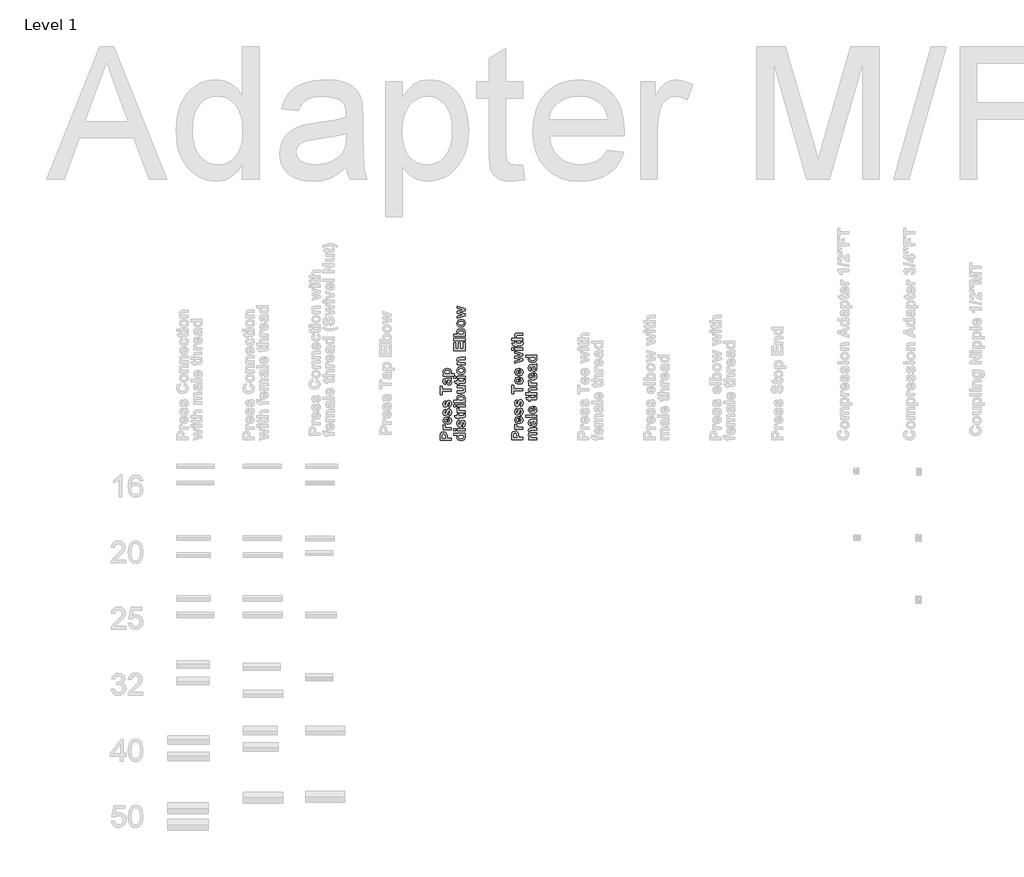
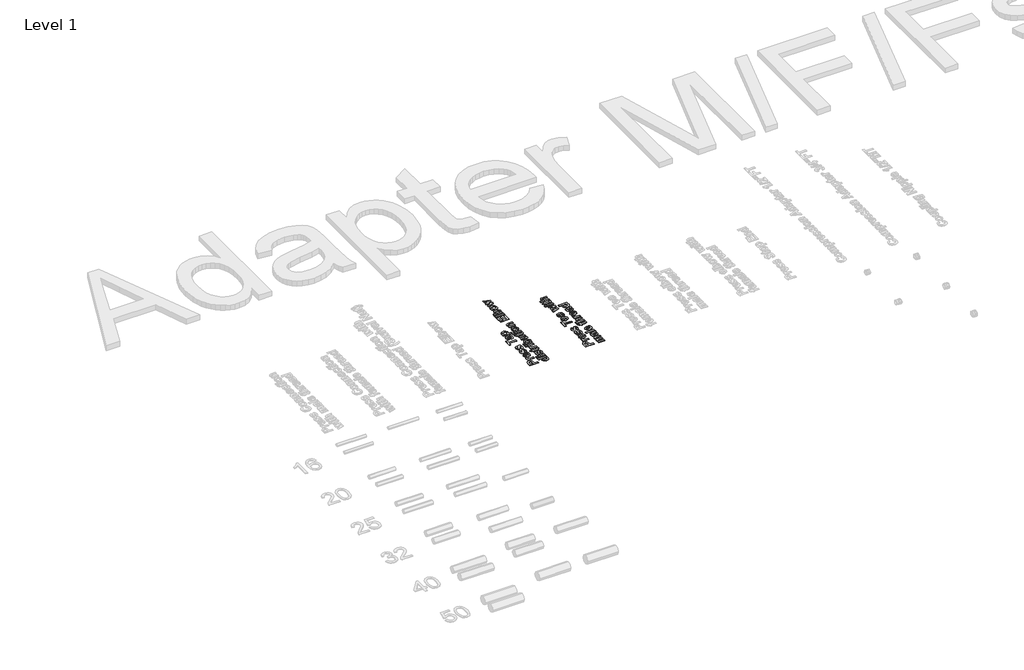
# One storey, part 44 of 58: 2 proxies.
"""IFC4 building model written with IfcOpenShell, lengths in millimetres."""

from ifc_helpers import new_model, si_unit, frame, origin, place, context, project, spatial, polyline, outline, extrude, element, save

model = new_model("IFC4")

# Units and contexts
model_context = context("Model", 3, world=origin())
ifc_project = project(units=[si_unit("LENGTHUNIT", "METRE", prefix="MILLI")], contexts=[model_context])

# Site, building, storey
site = spatial("IfcSite", under=ifc_project)
building = spatial("IfcBuilding", under=site)
storey = spatial("IfcBuildingStorey", under=building, Name="Level 1", Elevation=27.3876384)

# Proxies
placement = place(None, origin())
element("IfcBuildingElementProxy", 1, Name="50mm Arial", ObjectType="50mm Arial", at=placement, inside=storey, context=model_context, shape_type="SweptSolid", body=[
    extrude(outline(polyline([(30614.4451568, 30402.7922822), (30563.4321868, 30402.7922822), (30563.4321868, 30419.2272644), (30564.1913084, 30431.4111657), (30569.1572287, 30438.7177109), (30579.0321352, 30441.659307), (30586.8827175, 30439.9323054), (30591.8802679, 30435.5420523), (30594.2904789, 30430.1333111), (30595.0116444, 30419.3158286), (30595.0116444, 30412.5090384), (30614.4451568, 30412.5090384), (30614.4451568, 30402.7922822)]), holes=[polyline([(30572.3392133, 30412.5090384), (30586.1046179, 30412.5090384), (30586.1046179, 30418.544055), (30585.3454963, 30427.2549751), (30582.9605894, 30430.6963262), (30579.1839595, 30431.9425508), (30574.8190105, 30430.1902452), (30572.668166, 30425.768362), (30572.3392133, 30417.8355415), (30572.3392133, 30412.5090384)])]), frame((0.0, 0.0, 27.3876384), z_axis=(0.0, 0.0, 1.0), x_axis=(1.0, 0.0, 0.0)), (0.0, 0.0, 1.0), 2.0),
    extrude(outline(polyline([(30614.4451568, 30459.47336), (30614.4451568, 30449.7566038), (30577.1975914, 30449.7566038), (30577.1975914, 30459.47336), (30582.3849222, 30459.47336), (30577.5455221, 30463.3575321), (30576.3878617, 30467.2796602), (30578.43749, 30473.2387646), (30587.6861212, 30470.4047107), (30586.1046179, 30465.9005894), (30587.2116702, 30462.4782163), (30591.2033845, 30460.2767637), (30603.2987216, 30459.47336), (30614.4451568, 30459.47336)])), frame((0.0, 0.0, 27.3876384), z_axis=(0.0, 0.0, 1.0), x_axis=(1.0, 0.0, 0.0)), (0.0, 0.0, 1.0), 2.0),
    extrude(outline(polyline([(30603.1089413, 30498.3403848), (30604.7284006, 30508.057141), (30612.5663309, 30502.2625129), (30615.2548865, 30492.3559763), (30613.6702202, 30484.1669523), (30608.9162213, 30478.4260954), (30596.0997187, 30474.858224), (30581.6258006, 30479.5900818), (30576.3878617, 30491.5588987), (30581.7649729, 30504.3754013), (30598.2505632, 30508.8668707), (30598.2505632, 30484.5749802), (30605.41161, 30486.8649969), (30607.9673193, 30492.3180203), (30606.815985, 30496.050368), (30603.1089413, 30498.3403848)]), holes=[polyline([(30592.5824554, 30499.1501145), (30585.9464676, 30496.986618), (30583.6754289, 30491.9764156), (30586.0666618, 30486.7637807), (30592.5824554, 30484.7394565), (30592.5824554, 30499.1501145)])]), frame((0.0, 0.0, 27.3876384), z_axis=(0.0, 0.0, 1.0), x_axis=(1.0, 0.0, 0.0)), (0.0, 0.0, 1.0), 2.0),
    extrude(outline(polyline([(30603.9186709, 30512.1057894), (30602.2992116, 30521.8225456), (30606.5249883, 30524.3086687), (30607.9673193, 30529.5529336), (30606.5882485, 30535.1324772), (30604.0072351, 30536.3976799), (30602.1853433, 30535.7271225), (30600.9074887, 30532.5514639), (30596.1503268, 30517.9889816), (30587.7873374, 30513.7252487), (30579.6773886, 30517.3816843), (30576.3878617, 30528.7305519), (30579.0447872, 30539.5986425), (30586.9143476, 30544.4949767), (30588.533807, 30534.7782205), (30584.9279795, 30532.9057206), (30583.6754289, 30528.9835925), (30584.7381991, 30524.3656029), (30586.7119152, 30523.4420049), (30588.4705468, 30524.3656029), (30591.1907325, 30532.9626547), (30595.5303775, 30543.2297741), (30602.8305967, 30546.114436), (30611.5921249, 30541.9329414), (30615.2548865, 30529.5529336), (30612.2057482, 30517.7802232), (30603.9186709, 30512.1057894)])), frame((0.0, 0.0, 27.3876384), z_axis=(0.0, 0.0, 1.0), x_axis=(1.0, 0.0, 0.0)), (0.0, 0.0, 1.0), 2.0),
    extrude(outline(polyline([(30603.9186709, 30550.9728141), (30602.2992116, 30560.6895703), (30606.5249883, 30563.1756935), (30607.9673193, 30568.4199584), (30606.5882485, 30573.999502), (30604.0072351, 30575.2647046), (30602.1853433, 30574.5941472), (30600.9074887, 30571.4184886), (30596.1503268, 30556.8560064), (30587.7873374, 30552.5922735), (30579.6773886, 30556.2487091), (30576.3878617, 30567.5975767), (30579.0447872, 30578.4656673), (30586.9143476, 30583.3620014), (30588.533807, 30573.6452453), (30584.9279795, 30571.7727454), (30583.6754289, 30567.8506172), (30584.7381991, 30563.2326276), (30586.7119152, 30562.3090297), (30588.4705468, 30563.2326276), (30591.1907325, 30571.8296795), (30595.5303775, 30582.0967988), (30602.8305967, 30584.9814608), (30611.5921249, 30580.7999661), (30615.2548865, 30568.4199584), (30612.2057482, 30556.6472479), (30603.9186709, 30550.9728141)])), frame((0.0, 0.0, 27.3876384), z_axis=(0.0, 0.0, 1.0), x_axis=(1.0, 0.0, 0.0)), (0.0, 0.0, 1.0), 2.0),
    extrude(outline(polyline([(30614.4451568, 30624.6582153), (30572.3392133, 30624.6582153), (30572.3392133, 30610.083081), (30563.4321868, 30610.083081), (30563.4321868, 30648.9501057), (30572.3392133, 30648.9501057), (30572.3392133, 30634.3749714), (30614.4451568, 30634.3749714), (30614.4451568, 30624.6582153)])), frame((0.0, 0.0, 27.3876384), z_axis=(0.0, 0.0, 1.0), x_axis=(1.0, 0.0, 0.0)), (0.0, 0.0, 1.0), 2.0),
    extrude(outline(polyline([(30588.533807, 30663.52524), (30586.9143476, 30654.6182135), (30578.9688751, 30659.5082217), (30576.3878617, 30669.8132971), (30577.950387, 30679.0619283), (30581.9104712, 30683.3383132), (30590.7226075, 30684.5782118), (30602.2106474, 30684.5782118), (30609.4476064, 30685.0906188), (30614.4451568, 30687.0074008), (30614.4451568, 30677.2906446), (30611.3580624, 30676.3796987), (30613.9707058, 30670.8381112), (30615.2548865, 30664.9296149), (30612.136162, 30656.1933908), (30604.2602756, 30652.9987541), (30598.642776, 30654.4221071), (30594.8598201, 30658.4138214), (30592.5698034, 30665.8152568), (30590.1532663, 30674.8614556), (30584.9279795, 30673.6531871), (30583.6754289, 30669.1047836), (30584.7508511, 30665.5748683), (30588.533807, 30663.52524)]), holes=[polyline([(30597.4408335, 30674.8614556), (30598.7882743, 30669.3831282), (30600.3254955, 30664.474142), (30603.4252419, 30662.7155103), (30606.6198785, 30664.1262113), (30607.9673193, 30667.7130607), (30606.3984681, 30672.3563544), (30603.488502, 30674.5071988), (30599.1994651, 30674.8614556), (30597.4408335, 30674.8614556)])]), frame((0.0, 0.0, 27.3876384), z_axis=(0.0, 0.0, 1.0), x_axis=(1.0, 0.0, 0.0)), (0.0, 0.0, 1.0), 2.0),
    extrude(outline(polyline([(30577.1975914, 30694.2949679), (30577.1975914, 30704.0117241), (30582.5620506, 30704.0117241), (30578.0958853, 30708.6297137), (30576.3878617, 30715.0948992), (30581.4676503, 30725.602407), (30595.6062897, 30729.923074), (30610.0928598, 30725.4632347), (30615.2548865, 30714.6520782), (30614.052944, 30709.1737509), (30609.9283834, 30704.0117241), (30628.2105614, 30704.0117241), (30628.2105614, 30694.2949679), (30577.1975914, 30694.2949679)]), holes=[polyline([(30595.1761208, 30704.0117241), (30604.8422689, 30706.4472392), (30607.9673193, 30712.3873655), (30605.1016354, 30717.9732351), (30595.6948538, 30720.2063178), (30586.636003, 30717.909975), (30583.6754289, 30712.2102372), (30586.5790689, 30706.346023), (30595.1761208, 30704.0117241)])]), frame((0.0, 0.0, 27.3876384), z_axis=(0.0, 0.0, 1.0), x_axis=(1.0, 0.0, 0.0)), (0.0, 0.0, 1.0), 2.0),
    extrude(outline(polyline([(30677.4008317, 30435.9911992), (30677.4008317, 30426.274443), (30672.0363726, 30426.274443), (30676.6859922, 30421.1440464), (30678.2105614, 30415.191268), (30673.0485347, 30404.7217163), (30658.6378767, 30400.3630932), (30644.2651749, 30404.7153902), (30639.3435366, 30415.7226531), (30644.4423032, 30426.274443), (30626.3878617, 30426.274443), (30626.3878617, 30435.9911992), (30677.4008317, 30435.9911992)]), holes=[polyline([(30658.0685356, 30410.0798494), (30666.950258, 30411.6993088), (30670.9229943, 30418.2404063), (30667.9434421, 30423.9338182), (30659.0427416, 30426.274443), (30649.5347438, 30424.0034043), (30646.6311038, 30418.1771462), (30649.5031138, 30412.4078222), (30658.0685356, 30410.0798494)])]), frame((0.0, 0.0, 27.3876384), z_axis=(0.0, 0.0, 1.0), x_axis=(1.0, 0.0, 0.0)), (0.0, 0.0, 1.0), 2.0),
    extrude(outline(polyline([(30677.4008317, 30445.7079554), (30640.1532663, 30445.7079554), (30640.1532663, 30455.4247116), (30677.4008317, 30455.4247116), (30677.4008317, 30445.7079554)])), frame((0.0, 0.0, 27.3876384), z_axis=(0.0, 0.0, 1.0), x_axis=(1.0, 0.0, 0.0)), (0.0, 0.0, 1.0), 2.0),
    extrude(outline(polyline([(30635.2948882, 30445.7079554), (30626.3878617, 30445.7079554), (30626.3878617, 30455.4247116), (30635.2948882, 30455.4247116), (30635.2948882, 30445.7079554)])), frame((0.0, 0.0, 27.3876384), z_axis=(0.0, 0.0, 1.0), x_axis=(1.0, 0.0, 0.0)), (0.0, 0.0, 1.0), 2.0),
    extrude(outline(polyline([(30666.8743459, 30461.0928194), (30665.2548865, 30470.8095756), (30669.4806633, 30473.2956987), (30670.9229943, 30478.5399636), (30669.5439234, 30484.1195072), (30666.96291, 30485.3847099), (30665.1410183, 30484.7141525), (30663.8631636, 30481.5384939), (30659.1060017, 30466.9760116), (30650.7430123, 30462.7122787), (30642.6330635, 30466.3687143), (30639.3435366, 30477.7175819), (30642.0004622, 30488.5856725), (30649.8700225, 30493.4820067), (30651.4894819, 30483.7652505), (30647.8836544, 30481.8927506), (30646.6311038, 30477.9706225), (30647.693874, 30473.3526329), (30649.6675901, 30472.4290349), (30651.4262218, 30473.3526329), (30654.1464074, 30481.9496847), (30658.4860524, 30492.2168041), (30665.7862716, 30495.101466), (30674.5477998, 30490.9199714), (30678.2105614, 30478.5399636), (30675.1614231, 30466.7672532), (30666.8743459, 30461.0928194)])), frame((0.0, 0.0, 27.3876384), z_axis=(0.0, 0.0, 1.0), x_axis=(1.0, 0.0, 0.0)), (0.0, 0.0, 1.0), 2.0),
    extrude(outline(polyline([(30640.1532663, 30521.8225456), (30647.4408335, 30521.8225456), (30647.4408335, 30514.5349784), (30663.4203427, 30514.5349784), (30669.0694724, 30514.7563889), (30670.3979352, 30515.762225), (30670.9229943, 30517.6726809), (30669.9867443, 30522.2274104), (30676.8947507, 30522.6322753), (30678.2105614, 30514.6741507), (30677.2996155, 30509.7651645), (30674.9463386, 30506.5578759), (30671.0368625, 30505.1345229), (30663.9643798, 30504.8182222), (30647.4408335, 30504.8182222), (30647.4408335, 30499.9598441), (30640.1532663, 30499.9598441), (30640.1532663, 30504.8182222), (30632.8656992, 30504.8182222), (30627.1975914, 30514.5349784), (30640.1532663, 30514.5349784), (30640.1532663, 30521.8225456)])), frame((0.0, 0.0, 27.3876384), z_axis=(0.0, 0.0, 1.0), x_axis=(1.0, 0.0, 0.0)), (0.0, 0.0, 1.0), 2.0),
    extrude(outline(polyline([(30677.4008317, 30537.2074095), (30677.4008317, 30527.4906534), (30640.1532663, 30527.4906534), (30640.1532663, 30537.2074095), (30645.3405971, 30537.2074095), (30640.5011971, 30541.0915816), (30639.3435366, 30545.0137098), (30641.3931649, 30550.9728141), (30650.6417961, 30548.1387603), (30649.0602928, 30543.6346389), (30650.1673451, 30540.2122658), (30654.1590594, 30538.0108132), (30666.2543966, 30537.2074095), (30677.4008317, 30537.2074095)])), frame((0.0, 0.0, 27.3876384), z_axis=(0.0, 0.0, 1.0), x_axis=(1.0, 0.0, 0.0)), (0.0, 0.0, 1.0), 2.0),
    extrude(outline(polyline([(30635.2948882, 30555.0214626), (30626.3878617, 30555.0214626), (30626.3878617, 30564.7382187), (30635.2948882, 30564.7382187), (30635.2948882, 30555.0214626)])), frame((0.0, 0.0, 27.3876384), z_axis=(0.0, 0.0, 1.0), x_axis=(1.0, 0.0, 0.0)), (0.0, 0.0, 1.0), 2.0),
    extrude(outline(polyline([(30677.4008317, 30555.0214626), (30640.1532663, 30555.0214626), (30640.1532663, 30564.7382187), (30677.4008317, 30564.7382187), (30677.4008317, 30555.0214626)])), frame((0.0, 0.0, 27.3876384), z_axis=(0.0, 0.0, 1.0), x_axis=(1.0, 0.0, 0.0)), (0.0, 0.0, 1.0), 2.0),
    extrude(outline(polyline([(30677.4008317, 30574.4549749), (30626.3878617, 30574.4549749), (30626.3878617, 30584.1717311), (30644.4423032, 30584.1717311), (30639.3435366, 30594.7235211), (30644.2651749, 30605.7307839), (30658.3974882, 30610.083081), (30673.0611867, 30605.756088), (30678.2105614, 30595.2549062), (30676.6543622, 30589.2641717), (30672.0363726, 30584.1717311), (30677.4008317, 30584.1717311), (30677.4008317, 30574.4549749)]), holes=[polyline([(30658.0685356, 30584.1717311), (30666.8743459, 30585.9683189), (30670.9229943, 30592.6485887), (30668.0509843, 30598.1079381), (30659.0174375, 30600.3663248), (30649.5347438, 30598.0952861), (30646.6311038, 30592.269028), (30649.4651577, 30586.4807259), (30658.0685356, 30584.1717311)])]), frame((0.0, 0.0, 27.3876384), z_axis=(0.0, 0.0, 1.0), x_axis=(1.0, 0.0, 0.0)), (0.0, 0.0, 1.0), 2.0),
    extrude(outline(polyline([(30677.4008317, 30640.8528089), (30671.9351564, 30640.8528089), (30676.5341679, 30635.7730203), (30678.2105614, 30629.1243805), (30676.565798, 30622.7351073), (30671.9414824, 30618.6358507), (30663.6986873, 30617.3706481), (30640.1532663, 30617.3706481), (30640.1532663, 30627.0874043), (30657.3726741, 30627.0874043), (30667.0578002, 30627.6124634), (30669.8792021, 30629.5355714), (30670.9229943, 30633.0844648), (30669.5312714, 30637.4810439), (30666.0709422, 30640.1379694), (30655.9556472, 30640.8528089), (30640.1532663, 30640.8528089), (30640.1532663, 30650.5695651), (30677.4008317, 30650.5695651), (30677.4008317, 30640.8528089)])), frame((0.0, 0.0, 27.3876384), z_axis=(0.0, 0.0, 1.0), x_axis=(1.0, 0.0, 0.0)), (0.0, 0.0, 1.0), 2.0),
    extrude(outline(polyline([(30640.1532663, 30678.1003743), (30647.4408335, 30678.1003743), (30647.4408335, 30670.8128072), (30663.4203427, 30670.8128072), (30669.0694724, 30671.0342176), (30670.3979352, 30672.0400537), (30670.9229943, 30673.9505097), (30669.9867443, 30678.5052391), (30676.8947507, 30678.910104), (30678.2105614, 30670.9519794), (30677.2996155, 30666.0429932), (30674.9463386, 30662.8357046), (30671.0368625, 30661.4123516), (30663.9643798, 30661.096051), (30647.4408335, 30661.096051), (30647.4408335, 30656.2376729), (30640.1532663, 30656.2376729), (30640.1532663, 30661.096051), (30632.8656992, 30661.096051), (30627.1975914, 30670.8128072), (30640.1532663, 30670.8128072), (30640.1532663, 30678.1003743)])), frame((0.0, 0.0, 27.3876384), z_axis=(0.0, 0.0, 1.0), x_axis=(1.0, 0.0, 0.0)), (0.0, 0.0, 1.0), 2.0),
    extrude(outline(polyline([(30635.2948882, 30683.7684821), (30626.3878617, 30683.7684821), (30626.3878617, 30693.4852383), (30635.2948882, 30693.4852383), (30635.2948882, 30683.7684821)])), frame((0.0, 0.0, 27.3876384), z_axis=(0.0, 0.0, 1.0), x_axis=(1.0, 0.0, 0.0)), (0.0, 0.0, 1.0), 2.0),
    extrude(outline(polyline([(30677.4008317, 30683.7684821), (30640.1532663, 30683.7684821), (30640.1532663, 30693.4852383), (30677.4008317, 30693.4852383), (30677.4008317, 30683.7684821)])), frame((0.0, 0.0, 27.3876384), z_axis=(0.0, 0.0, 1.0), x_axis=(1.0, 0.0, 0.0)), (0.0, 0.0, 1.0), 2.0),
    extrude(outline(polyline([(30658.2456639, 30700.7728054), (30648.7629702, 30703.1703644), (30641.7600737, 30709.9581765), (30639.3435366, 30719.7634969), (30644.821864, 30733.4846194), (30658.6758328, 30738.8301005), (30672.6626479, 30733.4276853), (30678.2105614, 30719.839409), (30675.9015666, 30710.1669349), (30669.1264065, 30703.1703644), (30658.2456639, 30700.7728054)]), holes=[polyline([(30658.777049, 30710.4895616), (30667.7916178, 30713.1781172), (30670.9229943, 30719.814105), (30667.7916178, 30726.4374407), (30658.7011369, 30729.1133443), (30649.7624803, 30726.4374407), (30646.6311038, 30719.814105), (30649.7624803, 30713.1781172), (30658.777049, 30710.4895616)])]), frame((0.0, 0.0, 27.3876384), z_axis=(0.0, 0.0, 1.0), x_axis=(1.0, 0.0, 0.0)), (0.0, 0.0, 1.0), 2.0),
    extrude(outline(polyline([(30677.4008317, 30779.3165846), (30677.4008317, 30769.5998284), (30658.258316, 30769.5998284), (30650.3887556, 30768.9925312), (30647.6179618, 30767.006163), (30646.6311038, 30763.7039842), (30648.0418047, 30759.2567969), (30651.7868045, 30756.5619153), (30660.4091604, 30755.8344238), (30677.4008317, 30755.8344238), (30677.4008317, 30746.1176676), (30640.1532663, 30746.1176676), (30640.1532663, 30755.8344238), (30645.5177255, 30755.8344238), (30640.8870839, 30761.0502217), (30639.3435366, 30767.461636), (30640.5201751, 30773.1044397), (30643.5187053, 30776.9759597), (30647.6495919, 30778.8041775), (30654.2729277, 30779.3165846), (30677.4008317, 30779.3165846)])), frame((0.0, 0.0, 27.3876384), z_axis=(0.0, 0.0, 1.0), x_axis=(1.0, 0.0, 0.0)), (0.0, 0.0, 1.0), 2.0),
    extrude(outline(polyline([(30677.4008317, 30808.4668532), (30626.3878617, 30808.4668532), (30626.3878617, 30846.5241483), (30635.2948882, 30846.5241483), (30635.2948882, 30818.1836094), (30646.6311038, 30818.1836094), (30646.6311038, 30844.9046889), (30655.5381303, 30844.9046889), (30655.5381303, 30818.1836094), (30668.4938052, 30818.1836094), (30668.4938052, 30847.3338779), (30677.4008317, 30847.3338779), (30677.4008317, 30808.4668532)])), frame((0.0, 0.0, 27.3876384), z_axis=(0.0, 0.0, 1.0), x_axis=(1.0, 0.0, 0.0)), (0.0, 0.0, 1.0), 2.0),
    extrude(outline(polyline([(30677.4008317, 30855.4311748), (30626.3878617, 30855.4311748), (30626.3878617, 30865.147931), (30677.4008317, 30865.147931), (30677.4008317, 30855.4311748)])), frame((0.0, 0.0, 27.3876384), z_axis=(0.0, 0.0, 1.0), x_axis=(1.0, 0.0, 0.0)), (0.0, 0.0, 1.0), 2.0),
    extrude(outline(polyline([(30677.4008317, 30874.8646871), (30626.3878617, 30874.8646871), (30626.3878617, 30884.5814433), (30644.4423032, 30884.5814433), (30639.3435366, 30895.1332333), (30644.2651749, 30906.1404961), (30658.3974882, 30910.4927932), (30673.0611867, 30906.1658002), (30678.2105614, 30895.6646184), (30676.6543622, 30889.6738839), (30672.0363726, 30884.5814433), (30677.4008317, 30884.5814433), (30677.4008317, 30874.8646871)]), holes=[polyline([(30658.0685356, 30884.5814433), (30666.8743459, 30886.3780311), (30670.9229943, 30893.0583009), (30668.0509843, 30898.5176503), (30659.0174375, 30900.776037), (30649.5347438, 30898.5049983), (30646.6311038, 30892.6787402), (30649.4651577, 30886.8904381), (30658.0685356, 30884.5814433)])]), frame((0.0, 0.0, 27.3876384), z_axis=(0.0, 0.0, 1.0), x_axis=(1.0, 0.0, 0.0)), (0.0, 0.0, 1.0), 2.0),
    extrude(outline(polyline([(30658.2456639, 30915.3511713), (30648.7629702, 30917.7487303), (30641.7600737, 30924.5365424), (30639.3435366, 30934.3418627), (30644.821864, 30948.0629852), (30658.6758328, 30953.4084663), (30672.6626479, 30948.0060511), (30678.2105614, 30934.4177749), (30675.9015666, 30924.7453008), (30669.1264065, 30917.7487303), (30658.2456639, 30915.3511713)]), holes=[polyline([(30658.777049, 30925.0679275), (30667.7916178, 30927.756483), (30670.9229943, 30934.3924708), (30667.7916178, 30941.0158066), (30658.7011369, 30943.6917102), (30649.7624803, 30941.0158066), (30646.6311038, 30934.3924708), (30649.7624803, 30927.756483), (30658.777049, 30925.0679275)])]), frame((0.0, 0.0, 27.3876384), z_axis=(0.0, 0.0, 1.0), x_axis=(1.0, 0.0, 0.0)), (0.0, 0.0, 1.0), 2.0),
    extrude(outline(polyline([(30677.4008317, 30968.4643776), (30640.1532663, 30956.6473851), (30640.1532663, 30966.250273), (30664.559025, 30973.2468436), (30640.1532663, 30979.7879412), (30640.1532663, 30989.5300014), (30664.559025, 30995.9192747), (30640.1532663, 31002.9411493), (30640.1532663, 31012.5187332), (30677.4008317, 31000.7270447), (30677.4008317, 30991.1874168), (30653.450546, 30984.5830591), (30677.4008317, 30978.1431777), (30677.4008317, 30968.4643776)])), frame((0.0, 0.0, 27.3876384), z_axis=(0.0, 0.0, 1.0), x_axis=(1.0, 0.0, 0.0)), (0.0, 0.0, 1.0), 2.0),
])
element("IfcBuildingElementProxy", 2, Name="50mm Arial", ObjectType="50mm Arial", at=placement, inside=storey, context=model_context, shape_type="SweptSolid", body=[
    extrude(outline(polyline([(30939.1417262, 30406.1759681), (30888.1287562, 30406.1759681), (30888.1287562, 30422.6109503), (30888.8878778, 30434.7948516), (30893.8537981, 30442.1013968), (30903.7287046, 30445.0429929), (30911.5792869, 30443.3159913), (30916.5768373, 30438.9257382), (30918.9870483, 30433.516997), (30919.7082138, 30422.6995145), (30919.7082138, 30415.8927243), (30939.1417262, 30415.8927243), (30939.1417262, 30406.1759681)]), holes=[polyline([(30897.0357827, 30415.8927243), (30910.8011873, 30415.8927243), (30910.8011873, 30421.9277409), (30910.0420657, 30430.638661), (30907.6571588, 30434.0800121), (30903.8805289, 30435.3262367), (30899.5155798, 30433.5739311), (30897.3647354, 30429.1520479), (30897.0357827, 30421.2192274), (30897.0357827, 30415.8927243)])]), frame((0.0, 0.0, 27.3876384), z_axis=(0.0, 0.0, 1.0), x_axis=(1.0, 0.0, 0.0)), (0.0, 0.0, 1.0), 2.0),
    extrude(outline(polyline([(30939.1417262, 30462.8570459), (30939.1417262, 30453.1402897), (30901.8941608, 30453.1402897), (30901.8941608, 30462.8570459), (30907.0814916, 30462.8570459), (30902.2420915, 30466.741218), (30901.0844311, 30470.6633461), (30903.1340594, 30476.6224505), (30912.3826906, 30473.7883966), (30910.8011873, 30469.2842753), (30911.9082396, 30465.8619022), (30915.8999539, 30463.6604496), (30927.995291, 30462.8570459), (30939.1417262, 30462.8570459)])), frame((0.0, 0.0, 27.3876384), z_axis=(0.0, 0.0, 1.0), x_axis=(1.0, 0.0, 0.0)), (0.0, 0.0, 1.0), 2.0),
    extrude(outline(polyline([(30927.8055106, 30501.7240707), (30929.42497, 30511.4408269), (30937.2629003, 30505.6461988), (30939.9514559, 30495.7396622), (30938.3667896, 30487.5506382), (30933.6127907, 30481.8097813), (30920.7962881, 30478.2419099), (30906.32237, 30482.9737677), (30901.0844311, 30494.9425846), (30906.4615423, 30507.7590872), (30922.9471325, 30512.2505566), (30922.9471325, 30487.9586661), (30930.1081794, 30490.2486828), (30932.6638887, 30495.7017062), (30931.5125543, 30499.4340539), (30927.8055106, 30501.7240707)]), holes=[polyline([(30917.2790248, 30502.5338004), (30910.643037, 30500.3703039), (30908.3719982, 30495.3601015), (30910.7632312, 30490.1474666), (30917.2790248, 30488.1231424), (30917.2790248, 30502.5338004)])]), frame((0.0, 0.0, 27.3876384), z_axis=(0.0, 0.0, 1.0), x_axis=(1.0, 0.0, 0.0)), (0.0, 0.0, 1.0), 2.0),
    extrude(outline(polyline([(30928.6152403, 30515.4894753), (30926.9957809, 30525.2062315), (30931.2215577, 30527.6923546), (30932.6638887, 30532.9366195), (30931.2848179, 30538.5161631), (30928.7038045, 30539.7813658), (30926.8819127, 30539.1108084), (30925.604058, 30535.9351498), (30920.8468962, 30521.3726675), (30912.4839068, 30517.1089346), (30904.3739579, 30520.7653702), (30901.0844311, 30532.1142378), (30903.7413566, 30542.9823284), (30911.610917, 30547.8786626), (30913.2303763, 30538.1619064), (30909.6245488, 30536.2894065), (30908.3719982, 30532.3672784), (30909.4347685, 30527.7492888), (30911.4084846, 30526.8256908), (30913.1671162, 30527.7492888), (30915.8873019, 30536.3463406), (30920.2269469, 30546.61346), (30927.527166, 30549.4981219), (30936.2886943, 30545.3166273), (30939.9514559, 30532.9366195), (30936.9023175, 30521.1639091), (30928.6152403, 30515.4894753)])), frame((0.0, 0.0, 27.3876384), z_axis=(0.0, 0.0, 1.0), x_axis=(1.0, 0.0, 0.0)), (0.0, 0.0, 1.0), 2.0),
    extrude(outline(polyline([(30928.6152403, 30554.3565), (30926.9957809, 30564.0732562), (30931.2215577, 30566.5593794), (30932.6638887, 30571.8036443), (30931.2848179, 30577.3831879), (30928.7038045, 30578.6483905), (30926.8819127, 30577.9778331), (30925.604058, 30574.8021745), (30920.8468962, 30560.2396923), (30912.4839068, 30555.9759594), (30904.3739579, 30559.632395), (30901.0844311, 30570.9812626), (30903.7413566, 30581.8493532), (30911.610917, 30586.7456873), (30913.2303763, 30577.0289312), (30909.6245488, 30575.1564313), (30908.3719982, 30571.2343031), (30909.4347685, 30566.6163135), (30911.4084846, 30565.6927156), (30913.1671162, 30566.6163135), (30915.8873019, 30575.2133654), (30920.2269469, 30585.4804847), (30927.527166, 30588.3651467), (30936.2886943, 30584.183652), (30939.9514559, 30571.8036443), (30936.9023175, 30560.0309338), (30928.6152403, 30554.3565)])), frame((0.0, 0.0, 27.3876384), z_axis=(0.0, 0.0, 1.0), x_axis=(1.0, 0.0, 0.0)), (0.0, 0.0, 1.0), 2.0),
    extrude(outline(polyline([(30939.1417262, 30628.0419011), (30897.0357827, 30628.0419011), (30897.0357827, 30613.4667669), (30888.1287562, 30613.4667669), (30888.1287562, 30652.3337916), (30897.0357827, 30652.3337916), (30897.0357827, 30637.7586573), (30939.1417262, 30637.7586573), (30939.1417262, 30628.0419011)])), frame((0.0, 0.0, 27.3876384), z_axis=(0.0, 0.0, 1.0), x_axis=(1.0, 0.0, 0.0)), (0.0, 0.0, 1.0), 2.0),
    extrude(outline(polyline([(30927.8055106, 30679.8646008), (30929.42497, 30689.581357), (30937.2629003, 30683.786729), (30939.9514559, 30673.8801924), (30938.3667896, 30665.6911684), (30933.6127907, 30659.9503115), (30920.7962881, 30656.38244), (30906.32237, 30661.1142979), (30901.0844311, 30673.0831147), (30906.4615423, 30685.8996174), (30922.9471325, 30690.3910867), (30922.9471325, 30666.0991962), (30930.1081794, 30668.389213), (30932.6638887, 30673.8422363), (30931.5125543, 30677.5745841), (30927.8055106, 30679.8646008)]), holes=[polyline([(30917.2790248, 30680.6743305), (30910.643037, 30678.510834), (30908.3719982, 30673.5006316), (30910.7632312, 30668.2879968), (30917.2790248, 30666.2636726), (30917.2790248, 30680.6743305)])]), frame((0.0, 0.0, 27.3876384), z_axis=(0.0, 0.0, 1.0), x_axis=(1.0, 0.0, 0.0)), (0.0, 0.0, 1.0), 2.0),
    extrude(outline(polyline([(30927.8055106, 30718.7316256), (30929.42497, 30728.4483818), (30937.2629003, 30722.6537537), (30939.9514559, 30712.7472172), (30938.3667896, 30704.5581931), (30933.6127907, 30698.8173362), (30920.7962881, 30695.2494648), (30906.32237, 30699.9813226), (30901.0844311, 30711.9501395), (30906.4615423, 30724.7666421), (30922.9471325, 30729.2581115), (30922.9471325, 30704.966221), (30930.1081794, 30707.2562377), (30932.6638887, 30712.7092611), (30931.5125543, 30716.4416088), (30927.8055106, 30718.7316256)]), holes=[polyline([(30917.2790248, 30719.5413553), (30910.643037, 30717.3778588), (30908.3719982, 30712.3676564), (30910.7632312, 30707.1550215), (30917.2790248, 30705.1306973), (30917.2790248, 30719.5413553)])]), frame((0.0, 0.0, 27.3876384), z_axis=(0.0, 0.0, 1.0), x_axis=(1.0, 0.0, 0.0)), (0.0, 0.0, 1.0), 2.0),
    extrude(outline(polyline([(30939.1417262, 30763.7475351), (30901.8941608, 30751.9305426), (30901.8941608, 30761.5334305), (30926.2999195, 30768.5300011), (30901.8941608, 30775.0710987), (30901.8941608, 30784.8131589), (30926.2999195, 30791.2024322), (30901.8941608, 30798.2243068), (30901.8941608, 30807.8018907), (30939.1417262, 30796.0102022), (30939.1417262, 30786.4705743), (30915.1914404, 30779.8662166), (30939.1417262, 30773.4263352), (30939.1417262, 30763.7475351)])), frame((0.0, 0.0, 27.3876384), z_axis=(0.0, 0.0, 1.0), x_axis=(1.0, 0.0, 0.0)), (0.0, 0.0, 1.0), 2.0),
    extrude(outline(polyline([(30897.0357827, 30812.6602688), (30888.1287562, 30812.6602688), (30888.1287562, 30822.377025), (30897.0357827, 30822.377025), (30897.0357827, 30812.6602688)])), frame((0.0, 0.0, 27.3876384), z_axis=(0.0, 0.0, 1.0), x_axis=(1.0, 0.0, 0.0)), (0.0, 0.0, 1.0), 2.0),
    extrude(outline(polyline([(30939.1417262, 30812.6602688), (30901.8941608, 30812.6602688), (30901.8941608, 30822.377025), (30939.1417262, 30822.377025), (30939.1417262, 30812.6602688)])), frame((0.0, 0.0, 27.3876384), z_axis=(0.0, 0.0, 1.0), x_axis=(1.0, 0.0, 0.0)), (0.0, 0.0, 1.0), 2.0),
    extrude(outline(polyline([(30901.8941608, 30849.9078342), (30909.1817279, 30849.9078342), (30909.1817279, 30842.620267), (30925.1612371, 30842.620267), (30930.8103669, 30842.8416775), (30932.1388296, 30843.8475136), (30932.6638887, 30845.7579695), (30931.7276388, 30850.312699), (30938.6356451, 30850.7175638), (30939.9514559, 30842.7594393), (30939.04051, 30837.8504531), (30936.6872331, 30834.6431644), (30932.777757, 30833.2198115), (30925.7052743, 30832.9035108), (30909.1817279, 30832.9035108), (30909.1817279, 30828.0451327), (30901.8941608, 30828.0451327), (30901.8941608, 30832.9035108), (30894.6065936, 30832.9035108), (30888.9384859, 30842.620267), (30901.8941608, 30842.620267), (30901.8941608, 30849.9078342)])), frame((0.0, 0.0, 27.3876384), z_axis=(0.0, 0.0, 1.0), x_axis=(1.0, 0.0, 0.0)), (0.0, 0.0, 1.0), 2.0),
    extrude(outline(polyline([(30888.1287562, 30865.2926981), (30906.6007146, 30865.2926981), (30901.0844311, 30876.4138292), (30902.3433077, 30882.4108897), (30905.5695744, 30886.4342341), (30909.9155455, 30888.2814299), (30917.3043288, 30888.7748589), (30939.1417262, 30888.7748589), (30939.1417262, 30879.0581027), (30919.328653, 30879.0581027), (30911.8323274, 30878.5140656), (30909.3082482, 30876.5909576), (30908.3719982, 30873.1496064), (30909.5739407, 30868.8985256), (30913.1924203, 30866.1593619), (30920.3534671, 30865.2926981), (30939.1417262, 30865.2926981), (30939.1417262, 30855.5759419), (30888.1287562, 30855.5759419), (30888.1287562, 30865.2926981)])), frame((0.0, 0.0, 27.3876384), z_axis=(0.0, 0.0, 1.0), x_axis=(1.0, 0.0, 0.0)), (0.0, 0.0, 1.0), 2.0),
    extrude(outline(polyline([(30964.8498357, 30405.3662385), (30964.8498357, 30415.0829947), (30969.8347341, 30415.0829947), (30964.040106, 30425.9510852), (30965.463459, 30431.7646913), (30969.7714739, 30435.8070137), (30965.463459, 30440.9753665), (30964.040106, 30446.9028408), (30965.7038475, 30453.6716748), (30970.5938556, 30457.8215395), (30978.2989396, 30458.8083975), (31002.0974011, 30458.8083975), (31002.0974011, 30449.0916413), (30980.6522165, 30449.0916413), (30973.4532136, 30448.1047833), (30971.3276732, 30444.0308308), (30972.5992018, 30440.266853), (30976.3252235, 30437.7237957), (30984.0809157, 30436.9456961), (31002.0974011, 30436.9456961), (31002.0974011, 30427.2289399), (30981.5378584, 30427.2289399), (30974.4717017, 30426.7228588), (30972.1057728, 30425.1603336), (30971.3276732, 30422.2819976), (30972.5612457, 30418.3472174), (30976.1291171, 30415.8421162), (30983.8658312, 30415.0829947), (31002.0974011, 30415.0829947), (31002.0974011, 30405.3662385), (30964.8498357, 30405.3662385)])), frame((0.0, 0.0, 27.3876384), z_axis=(0.0, 0.0, 1.0), x_axis=(1.0, 0.0, 0.0)), (0.0, 0.0, 1.0), 2.0),
    extrude(outline(polyline([(30976.1860513, 30476.6224505), (30974.5665919, 30467.715424), (30966.6211194, 30472.6054322), (30964.040106, 30482.9105076), (30965.6026313, 30492.1591388), (30969.5627155, 30496.4355237), (30978.3748518, 30497.6754223), (30989.8628917, 30497.6754223), (30997.0998507, 30498.1878293), (31002.0974011, 30500.1046113), (31002.0974011, 30490.3878551), (30999.0103067, 30489.4769092), (31001.6229501, 30483.9353217), (31002.9071308, 30478.0268254), (30999.7884063, 30469.2906013), (30991.9125199, 30466.0959646), (30986.2950203, 30467.5193176), (30982.5120644, 30471.5110319), (30980.2220476, 30478.9124673), (30977.8055106, 30487.9586661), (30972.5802238, 30486.7503976), (30971.3276732, 30482.2019941), (30972.4030954, 30478.6720788), (30976.1860513, 30476.6224505)]), holes=[polyline([(30985.0930778, 30487.9586661), (30986.4405186, 30482.4803387), (30987.9777398, 30477.5713525), (30991.0774862, 30475.8127208), (30994.2721228, 30477.2234218), (30995.6195636, 30480.8102712), (30994.0507124, 30485.4535649), (30991.1407463, 30487.6044093), (30986.8517094, 30487.9586661), (30985.0930778, 30487.9586661)])]), frame((0.0, 0.0, 27.3876384), z_axis=(0.0, 0.0, 1.0), x_axis=(1.0, 0.0, 0.0)), (0.0, 0.0, 1.0), 2.0),
    extrude(outline(polyline([(31002.0974011, 30507.3921785), (30951.0844311, 30507.3921785), (30951.0844311, 30517.1089346), (31002.0974011, 30517.1089346), (31002.0974011, 30507.3921785)])), frame((0.0, 0.0, 27.3876384), z_axis=(0.0, 0.0, 1.0), x_axis=(1.0, 0.0, 0.0)), (0.0, 0.0, 1.0), 2.0),
    extrude(outline(polyline([(30990.7611855, 30547.8786626), (30992.3806449, 30557.5954188), (31000.2185752, 30551.8007907), (31002.9071308, 30541.8942541), (31001.3224645, 30533.7052301), (30996.5684656, 30527.9643732), (30983.751963, 30524.3965018), (30969.2780449, 30529.1283596), (30964.040106, 30541.0971765), (30969.4172172, 30553.9136791), (30985.9028074, 30558.4051485), (30985.9028074, 30534.113258), (30993.0638543, 30536.4032747), (30995.6195636, 30541.8562981), (30994.4682292, 30545.5886458), (30990.7611855, 30547.8786626)]), holes=[polyline([(30980.2346997, 30548.6883923), (30973.5987119, 30546.5248958), (30971.3276732, 30541.5146934), (30973.7189061, 30536.3020585), (30980.2346997, 30534.2777343), (30980.2346997, 30548.6883923)])]), frame((0.0, 0.0, 27.3876384), z_axis=(0.0, 0.0, 1.0), x_axis=(1.0, 0.0, 0.0)), (0.0, 0.0, 1.0), 2.0),
    extrude(outline(polyline([(30964.8498357, 30602.940281), (30972.1374028, 30602.940281), (30972.1374028, 30595.6527138), (30988.116912, 30595.6527138), (30993.7660418, 30595.8741243), (30995.0945045, 30596.8799604), (30995.6195636, 30598.7904164), (30994.6833137, 30603.3451458), (31001.59132, 30603.7500107), (31002.9071308, 30595.7918861), (31001.9961849, 30590.8828999), (30999.642908, 30587.6756113), (30995.7334319, 30586.2522583), (30988.6609492, 30585.9359577), (30972.1374028, 30585.9359577), (30972.1374028, 30581.0775796), (30964.8498357, 30581.0775796), (30964.8498357, 30585.9359577), (30957.5622686, 30585.9359577), (30951.8941608, 30595.6527138), (30964.8498357, 30595.6527138), (30964.8498357, 30602.940281)])), frame((0.0, 0.0, 27.3876384), z_axis=(0.0, 0.0, 1.0), x_axis=(1.0, 0.0, 0.0)), (0.0, 0.0, 1.0), 2.0),
    extrude(outline(polyline([(30951.0844311, 30618.325145), (30969.5563895, 30618.325145), (30964.040106, 30629.4462761), (30965.2989826, 30635.4433365), (30968.5252493, 30639.4666809), (30972.8712204, 30641.3138767), (30980.2600037, 30641.8073058), (31002.0974011, 30641.8073058), (31002.0974011, 30632.0905496), (30982.2843279, 30632.0905496), (30974.7880024, 30631.5465124), (30972.2639231, 30629.6234044), (30971.3276732, 30626.1820533), (30972.5296157, 30621.9309725), (30976.1480952, 30619.1918088), (30983.3091421, 30618.325145), (31002.0974011, 30618.325145), (31002.0974011, 30608.6083888), (30951.0844311, 30608.6083888), (30951.0844311, 30618.325145)])), frame((0.0, 0.0, 27.3876384), z_axis=(0.0, 0.0, 1.0), x_axis=(1.0, 0.0, 0.0)), (0.0, 0.0, 1.0), 2.0),
    extrude(outline(polyline([(31002.0974011, 30661.2408181), (31002.0974011, 30651.5240619), (30964.8498357, 30651.5240619), (30964.8498357, 30661.2408181), (30970.0371665, 30661.2408181), (30965.1977664, 30665.1249902), (30964.040106, 30669.0471184), (30966.0897343, 30675.0062227), (30975.3383655, 30672.1721688), (30973.7568622, 30667.6680475), (30974.8639145, 30664.2456744), (30978.8556288, 30662.0442218), (30990.9509659, 30661.2408181), (31002.0974011, 30661.2408181)])), frame((0.0, 0.0, 27.3876384), z_axis=(0.0, 0.0, 1.0), x_axis=(1.0, 0.0, 0.0)), (0.0, 0.0, 1.0), 2.0),
    extrude(outline(polyline([(30990.7611855, 30700.1078429), (30992.3806449, 30709.8245991), (31000.2185752, 30704.029971), (31002.9071308, 30694.1234345), (31001.3224645, 30685.9344104), (30996.5684656, 30680.1935535), (30983.751963, 30676.6256821), (30969.2780449, 30681.3575399), (30964.040106, 30693.3263568), (30969.4172172, 30706.1428594), (30985.9028074, 30710.6343288), (30985.9028074, 30686.3424383), (30993.0638543, 30688.632455), (30995.6195636, 30694.0854784), (30994.4682292, 30697.8178261), (30990.7611855, 30700.1078429)]), holes=[polyline([(30980.2346997, 30700.9175726), (30973.5987119, 30698.7540761), (30971.3276732, 30693.7438737), (30973.7189061, 30688.5312388), (30980.2346997, 30686.5069146), (30980.2346997, 30700.9175726)])]), frame((0.0, 0.0, 27.3876384), z_axis=(0.0, 0.0, 1.0), x_axis=(1.0, 0.0, 0.0)), (0.0, 0.0, 1.0), 2.0),
    extrude(outline(polyline([(30976.1860513, 30726.0191927), (30974.5665919, 30717.1121662), (30966.6211194, 30722.0021744), (30964.040106, 30732.3072498), (30965.6026313, 30741.555881), (30969.5627155, 30745.8322659), (30978.3748518, 30747.0721645), (30989.8628917, 30747.0721645), (30997.0998507, 30747.5845715), (31002.0974011, 30749.5013535), (31002.0974011, 30739.7845973), (30999.0103067, 30738.8736514), (31001.6229501, 30733.3320639), (31002.9071308, 30727.4235677), (30999.7884063, 30718.6873435), (30991.9125199, 30715.4927069), (30986.2950203, 30716.9160598), (30982.5120644, 30720.9077741), (30980.2220476, 30728.3092095), (30977.8055106, 30737.3554083), (30972.5802238, 30736.1471398), (30971.3276732, 30731.5987363), (30972.4030954, 30728.068821), (30976.1860513, 30726.0191927)]), holes=[polyline([(30985.0930778, 30737.3554083), (30986.4405186, 30731.8770809), (30987.9777398, 30726.9680947), (30991.0774862, 30725.2094631), (30994.2721228, 30726.620164), (30995.6195636, 30730.2070134), (30994.0507124, 30734.8503071), (30991.1407463, 30737.0011516), (30986.8517094, 30737.3554083), (30985.0930778, 30737.3554083)])]), frame((0.0, 0.0, 27.3876384), z_axis=(0.0, 0.0, 1.0), x_axis=(1.0, 0.0, 0.0)), (0.0, 0.0, 1.0), 2.0),
    extrude(outline(polyline([(31002.0974011, 30789.9878377), (31002.0974011, 30780.2710815), (30996.732942, 30780.2710815), (31001.3825616, 30775.1406848), (31002.9071308, 30769.1879064), (30997.7451041, 30758.7183547), (30983.3344461, 30754.3597316), (30968.9617442, 30758.7120287), (30964.040106, 30769.7192915), (30969.1388726, 30780.2710815), (30951.0844311, 30780.2710815), (30951.0844311, 30789.9878377), (31002.0974011, 30789.9878377)]), holes=[polyline([(30982.7651049, 30764.0764878), (30991.6468274, 30765.6959472), (30995.6195636, 30772.2370448), (30992.6400114, 30777.9304566), (30983.739311, 30780.2710815), (30974.2313132, 30778.0000427), (30971.3276732, 30772.1737846), (30974.1996831, 30766.4044606), (30982.7651049, 30764.0764878)])]), frame((0.0, 0.0, 27.3876384), z_axis=(0.0, 0.0, 1.0), x_axis=(1.0, 0.0, 0.0)), (0.0, 0.0, 1.0), 2.0),
])

save(model, "model.ifc")
